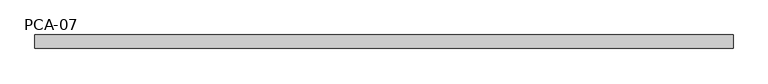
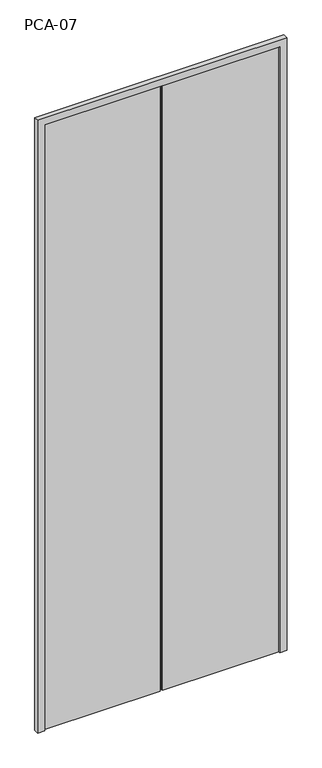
"""IFC4 building model written with IfcOpenShell, lengths in millimetres: furniture geometry, Puerta Closet abatible 2 hojas completas : PCA-07."""

from ifc_helpers import new_model, si_unit, frame, origin, origin_with_axes, place, context, project, spatial, polyline, outline, extrude, source, transform, mapped, element, save


def pca_07_bb4cdf7f(model_context):
    return source(origin(), model_context, "Body", "SweptSolid", [
        extrude(outline(polyline([(-775.0, 86.6666667), (-1260.0, 86.6666667), (-1260.0, 93.3333333), (-775.0, 93.3333333), (-775.0, 86.6666667)])), origin_with_axes(), (0.0, 0.0, 1.0), 2670.0),
        extrude(outline(polyline([(0.0, -1290.0), (0.0, -1260.0), (2670.0, -1260.0), (2670.0, -280.0), (0.0, -280.0), (0.0, -250.0), (2700.0, -250.0), (2700.0, -1290.0), (0.0, -1290.0)])), frame((0.0, 80.0, 0.0), z_axis=(0.0, 1.0, 0.0), x_axis=(0.0, 0.0, 1.0)), (0.0, 0.0, 1.0), 20.0),
        extrude(outline(polyline([(-280.0, 86.6666667), (-765.0, 86.6666667), (-765.0, 93.3333333), (-280.0, 93.3333333), (-280.0, 86.6666667)])), origin_with_axes(), (0.0, 0.0, 1.0), 2670.0),
    ])


if __name__ == "__main__":
    model = new_model("IFC4")
    model_context = context("Model", 3, world=origin())
    ifc_project = project(units=[si_unit("LENGTHUNIT", "METRE", prefix="MILLI")], contexts=[model_context])
    site = spatial("IfcSite", under=ifc_project)
    building = spatial("IfcBuilding", under=site)
    placement = place(None, origin())
    pca_07_shape = pca_07_bb4cdf7f(model_context)
    element("IfcFurniture", 1, ObjectType="Puerta Closet abatible 2 hojas completas : PCA-07", at=placement, inside=building, context=model_context, shape_type="MappedRepresentation", body=[
        mapped(pca_07_shape, transform((0.0, 0.0, 0.0), x_axis=(1.0, 0.0, 0.0), y_axis=(0.0, 1.0, 0.0), z_axis=(0.0, 0.0, 1.0))),
    ])
    save(model, "model.ifc")
